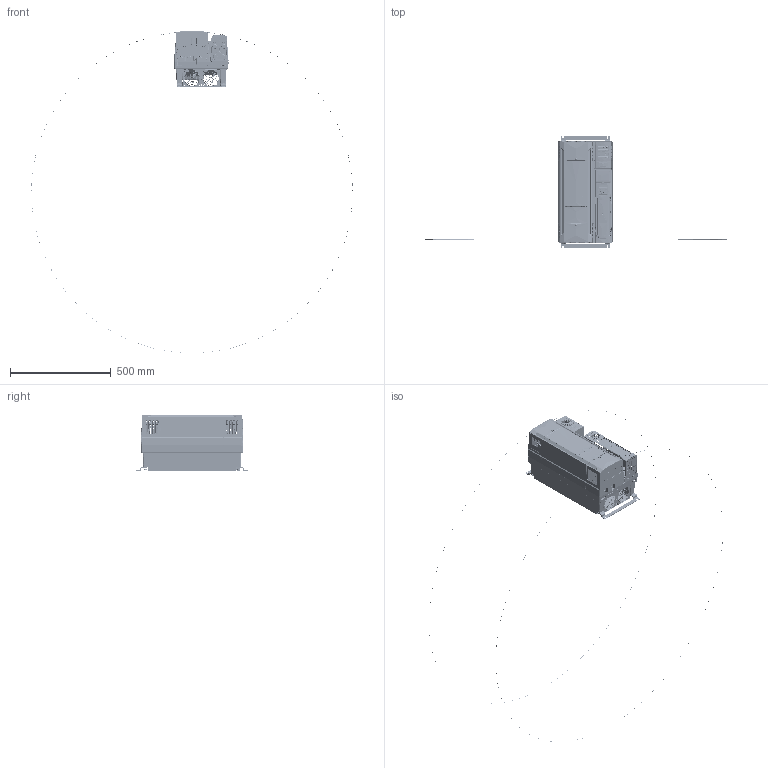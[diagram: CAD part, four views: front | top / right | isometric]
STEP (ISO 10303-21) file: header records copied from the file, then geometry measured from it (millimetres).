
FILE_DESCRIPTION((''),'2;1');
FILE_NAME('M200-SIMPLE_SW0003','2014-02-21T',('owenrh01'),(''),'PRO/ENGINEER BY PARAMETRIC TECHNOLOGY CORPORATION, 2011490','PRO/ENGINEER BY PARAMETRIC TECHNOLOGY CORPORATION, 2011490','');
FILE_SCHEMA(('CONFIG_CONTROL_DESIGN'));
Products named in the file (1): M200-SIMPLE_SW0003
Bounding box: 1593.8 x 557 x 1597.44 mm (x, y, z)
Surface area: 1769926.7 mm2 (no closed solid volume)
Topology: 0 solids, 0 shells, 4496 faces, 41197 edges, 41042 vertices
Faces by surface type: bspline 4313, torus 166, sphere 17
Entity records: 668013 total; most frequent: CARTESIAN_POINT 289422, DIRECTION 57746, TRIMMED_CURVE 53107, VECTOR 48834, LINE 48834, DEFINITIONAL_REPRESENTATION 40876, PCURVE 40876, COMPOSITE_CURVE_SEGMENT 40876
